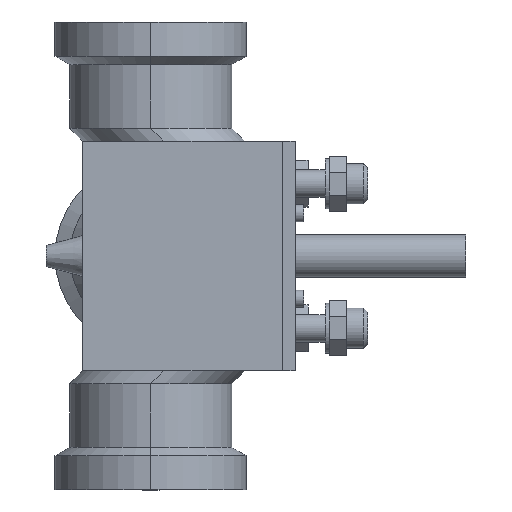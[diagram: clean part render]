
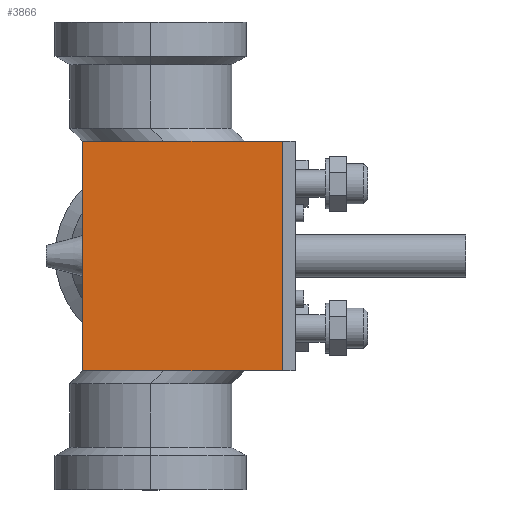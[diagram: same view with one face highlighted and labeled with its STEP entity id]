
A CAD part, left-side view. The second image highlights one B-rep face of the part: STEP entity #3866.
In plain terms, the highlighted planar face has unit normal (-1, 0, 0).
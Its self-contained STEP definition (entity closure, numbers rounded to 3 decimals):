
#3827=CARTESIAN_POINT('',(-27.,-7.464,40.5));
#3828=DIRECTION('',(1.0,0.0,0.0));
#3829=DIRECTION('',(0.0,0.0,1.0));
#3830=AXIS2_PLACEMENT_3D('',#3827,#3828,#3829);
#3831=PLANE('',#3830);
#3832=CARTESIAN_POINT('',(-27.,-30.964,67.5));
#3833=VERTEX_POINT('',#3832);
#3834=CARTESIAN_POINT('',(-27.,16.036,67.5));
#3835=VERTEX_POINT('',#3834);
#3836=CARTESIAN_POINT('',(-27.,-30.964,67.5));
#3837=DIRECTION('',(0.0,1.0,0.0));
#3838=VECTOR('',#3837,47.0);
#3839=LINE('',#3836,#3838);
#3840=EDGE_CURVE('',#3833,#3835,#3839,.T.);
#3841=ORIENTED_EDGE('',*,*,#3840,.T.);
#3842=CARTESIAN_POINT('',(-27.,16.036,13.5));
#3843=VERTEX_POINT('',#3842);
#3844=CARTESIAN_POINT('',(-27.,16.036,67.5));
#3845=DIRECTION('',(0.0,0.0,-1.0));
#3846=VECTOR('',#3845,54.0);
#3847=LINE('',#3844,#3846);
#3848=EDGE_CURVE('',#3835,#3843,#3847,.T.);
#3849=ORIENTED_EDGE('',*,*,#3848,.T.);
#3850=CARTESIAN_POINT('',(-27.,-30.964,13.5));
#3851=VERTEX_POINT('',#3850);
#3852=CARTESIAN_POINT('',(-27.,16.036,13.5));
#3853=DIRECTION('',(0.0,-1.0,0.0));
#3854=VECTOR('',#3853,47.0);
#3855=LINE('',#3852,#3854);
#3856=EDGE_CURVE('',#3843,#3851,#3855,.T.);
#3857=ORIENTED_EDGE('',*,*,#3856,.T.);
#3858=CARTESIAN_POINT('',(-27.,-30.964,13.5));
#3859=DIRECTION('',(0.0,0.0,1.0));
#3860=VECTOR('',#3859,54.0);
#3861=LINE('',#3858,#3860);
#3862=EDGE_CURVE('',#3851,#3833,#3861,.T.);
#3863=ORIENTED_EDGE('',*,*,#3862,.T.);
#3864=EDGE_LOOP('',(#3841,#3849,#3857,#3863));
#3865=FACE_OUTER_BOUND('',#3864,.T.);
#3866=ADVANCED_FACE('',(#3865),#3831,.F.);
